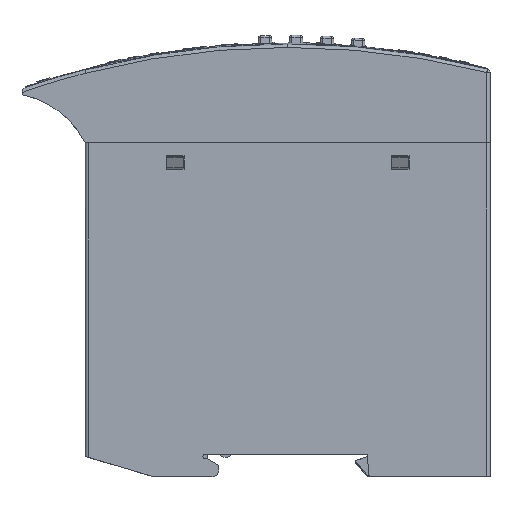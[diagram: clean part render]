
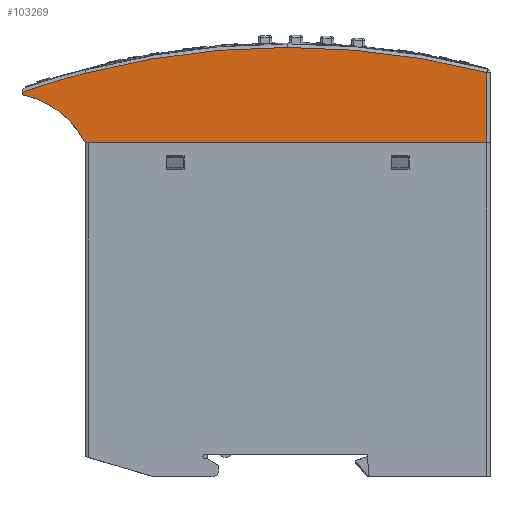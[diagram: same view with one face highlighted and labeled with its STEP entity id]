
A CAD part, left-side view. The second image highlights one B-rep face of the part: STEP entity #103269.
In plain terms, the highlighted planar face has unit normal (-1, 0, 0).
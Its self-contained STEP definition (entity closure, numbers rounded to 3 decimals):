
#3173 = EDGE_CURVE ( 'NONE', #22699, #129116, #155703, .T. ) ;
#4742 = ORIENTED_EDGE ( 'NONE', *, *, #188701, .F. ) ;
#13516 = CARTESIAN_POINT ( 'NONE',  ( -11.25, 0., 21.3 ) ) ;
#19374 = DIRECTION ( 'NONE',  ( 0., -1., 0. ) ) ;
#22699 = VERTEX_POINT ( 'NONE', #159802 ) ;
#24549 = LINE ( 'NONE', #152861, #196299 ) ;
#27167 = EDGE_CURVE ( 'NONE', #44705, #112425, #79776, .T. ) ;
#30656 = PLANE ( 'NONE',  #54383 ) ;
#34179 = VECTOR ( 'NONE', #19374, 1000. ) ;
#35143 = LINE ( 'NONE', #147678, #34179 ) ;
#35977 = DIRECTION ( 'NONE',  ( 0., 0., 1. ) ) ;
#44480 = CARTESIAN_POINT ( 'NONE',  ( -11.25, 45.001, 0.102 ) ) ;
#44705 = VERTEX_POINT ( 'NONE', #79176 ) ;
#49497 = EDGE_CURVE ( 'NONE', #87716, #140759, #24549, .T. ) ;
#49521 = LINE ( 'NONE', #130469, #116750 ) ;
#52364 = EDGE_CURVE ( 'NONE', #112425, #129116, #58629, .T. ) ;
#54383 = AXIS2_PLACEMENT_3D ( 'NONE', #175743, #144177, #128406 ) ;
#55310 = AXIS2_PLACEMENT_3D ( 'NONE', #146229, #81030, #179808 ) ;
#56559 = EDGE_LOOP ( 'NONE', ( #160031, #147203, #96733, #159930, #142840, #4742, #154162, #61845 ) ) ;
#58629 = CIRCLE ( 'NONE', #55310, 179.3 ) ;
#61845 = ORIENTED_EDGE ( 'NONE', *, *, #66919, .T. ) ;
#66919 = EDGE_CURVE ( 'NONE', #140759, #22699, #35143, .T. ) ;
#75115 = VECTOR ( 'NONE', #139928, 1000. ) ;
#78089 = DIRECTION ( 'NONE',  ( 0., 0., 1. ) ) ;
#79176 = CARTESIAN_POINT ( 'NONE',  ( -11.25, 45., 15.561 ) ) ;
#79776 = CIRCLE ( 'NONE', #140113, 179.3 ) ;
#80066 = FACE_OUTER_BOUND ( 'NONE', #56559, .T. ) ;
#81030 = DIRECTION ( 'NONE',  ( 1., 0., 0. ) ) ;
#81643 = EDGE_CURVE ( 'NONE', #150450, #133846, #49521, .T. ) ;
#87676 = DIRECTION ( 'NONE',  ( 0., -0.009, -1. ) ) ;
#87716 = VERTEX_POINT ( 'NONE', #44480 ) ;
#91139 = CARTESIAN_POINT ( 'NONE',  ( -11.25, 59.005, 11.313 ) ) ;
#91543 = CARTESIAN_POINT ( 'NONE',  ( -11.25, -44.3, 8.574 ) ) ;
#96733 = ORIENTED_EDGE ( 'NONE', *, *, #27167, .F. ) ;
#99100 = DIRECTION ( 'NONE',  ( -1., 0., 0. ) ) ;
#102641 = AXIS2_PLACEMENT_3D ( 'NONE', #180018, #99100, #35977 ) ;
#103269 = ADVANCED_FACE ( 'NONE', ( #80066 ), #30656, .T. ) ;
#109620 = CARTESIAN_POINT ( 'NONE',  ( -11.25, 0., -158. ) ) ;
#111682 = DIRECTION ( 'NONE',  ( 1., 0., 0. ) ) ;
#112425 = VERTEX_POINT ( 'NONE', #13516 ) ;
#114727 = DIRECTION ( 'NONE',  ( 0., -0.009, -1. ) ) ;
#116750 = VECTOR ( 'NONE', #114727, 1000. ) ;
#128406 = DIRECTION ( 'NONE',  ( 0., 0., -1. ) ) ;
#128894 = CARTESIAN_POINT ( 'NONE',  ( -11.25, -44.3, 15.741 ) ) ;
#129116 = VERTEX_POINT ( 'NONE', #128894 ) ;
#130244 = CARTESIAN_POINT ( 'NONE',  ( -11.25, 45.001, 0.1 ) ) ;
#130469 = CARTESIAN_POINT ( 'NONE',  ( -11.25, 59., 10.785 ) ) ;
#133846 = VERTEX_POINT ( 'NONE', #154551 ) ;
#139928 = DIRECTION ( 'NONE',  ( 0., 0., 1. ) ) ;
#140113 = AXIS2_PLACEMENT_3D ( 'NONE', #173736, #111682, #78089 ) ;
#140759 = VERTEX_POINT ( 'NONE', #130244 ) ;
#141916 = EDGE_CURVE ( 'NONE', #44705, #150450, #185474, .T. ) ;
#142840 = ORIENTED_EDGE ( 'NONE', *, *, #81643, .T. ) ;
#143238 = DIRECTION ( 'NONE',  ( -1., 0., 0. ) ) ;
#144177 = DIRECTION ( 'NONE',  ( -1., 0., 0. ) ) ;
#146229 = CARTESIAN_POINT ( 'NONE',  ( -11.25, 0., -158. ) ) ;
#147203 = ORIENTED_EDGE ( 'NONE', *, *, #52364, .F. ) ;
#147678 = CARTESIAN_POINT ( 'NONE',  ( -11.25, 44.3, 0.1 ) ) ;
#150450 = VERTEX_POINT ( 'NONE', #91139 ) ;
#152861 = CARTESIAN_POINT ( 'NONE',  ( -11.25, 45.071, 8.181 ) ) ;
#154162 = ORIENTED_EDGE ( 'NONE', *, *, #49497, .T. ) ;
#154551 = CARTESIAN_POINT ( 'NONE',  ( -11.25, 59., 10.785 ) ) ;
#155703 = LINE ( 'NONE', #91543, #75115 ) ;
#159802 = CARTESIAN_POINT ( 'NONE',  ( -11.25, -44.3, 0.1 ) ) ;
#159930 = ORIENTED_EDGE ( 'NONE', *, *, #141916, .T. ) ;
#160031 = ORIENTED_EDGE ( 'NONE', *, *, #3173, .T. ) ;
#173736 = CARTESIAN_POINT ( 'NONE',  ( -11.25, 0., -158. ) ) ;
#175743 = CARTESIAN_POINT ( 'NONE',  ( -11.25, 0., 8.574 ) ) ;
#176581 = CIRCLE ( 'NONE', #102641, 20. ) ;
#178721 = AXIS2_PLACEMENT_3D ( 'NONE', #109620, #143238, #192603 ) ;
#179808 = DIRECTION ( 'NONE',  ( 0., 0., 1. ) ) ;
#180018 = CARTESIAN_POINT ( 'NONE',  ( -11.25, 62.895, -8.832 ) ) ;
#185474 = CIRCLE ( 'NONE', #178721, 179.3 ) ;
#188701 = EDGE_CURVE ( 'NONE', #87716, #133846, #176581, .T. ) ;
#192603 = DIRECTION ( 'NONE',  ( 0., 0., 1. ) ) ;
#196299 = VECTOR ( 'NONE', #87676, 1000. ) ;
